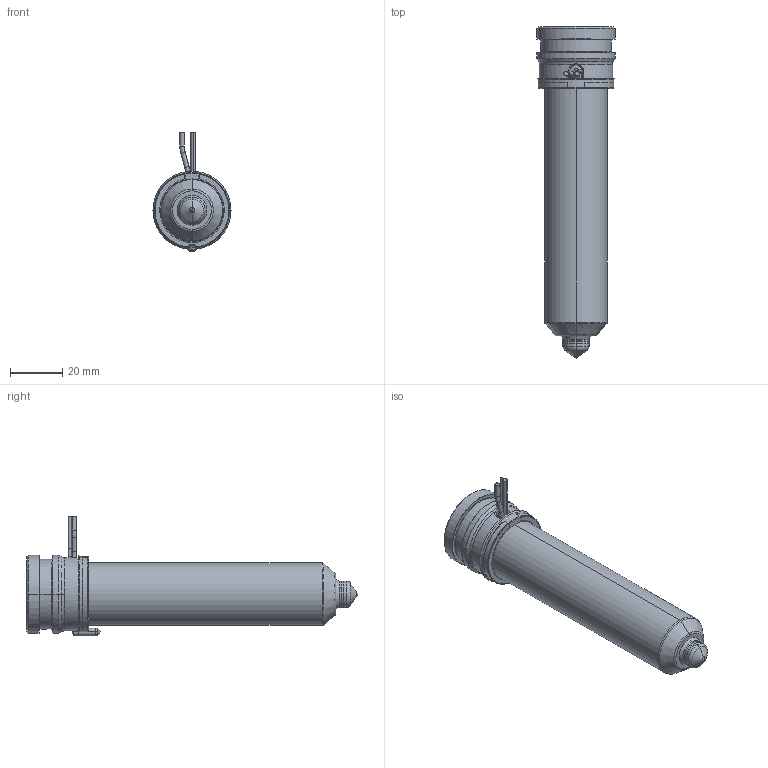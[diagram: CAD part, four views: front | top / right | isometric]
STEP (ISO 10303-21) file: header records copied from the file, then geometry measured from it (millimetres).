
FILE_DESCRIPTION((''),'2;1');
FILE_NAME('MPN-10-29-TX10-106-A','2026-02-11T11:17:14',('UVRWS'),('Thermoplay S.p.A.'),'CREO PARAMETRIC BY PTC INC, 2023494','CREO PARAMETRIC BY PTC INC, 2023494','');
FILE_SCHEMA(('CONFIG_CONTROL_DESIGN','SHAPE_APPEARANCE_LAYERS_GROUPS'));
Length unit declared in the file: millimetre
Products named in the file (1): MPN-10-29-TX10-106-A
Bounding box: 30 x 127.5 x 46 mm (x, y, z)
Volume: 40024.7 mm3; surface area: 39955.5 mm2
Topology: 2 solids, 3 shells, 551 faces, 1455 edges, 899 vertices
Faces by surface type: cylinder 180, plane 143, bspline 79, torus 68, cone 66, sphere 11, extrusion 4
Entity records: 28555 total; most frequent: CARTESIAN_POINT 12199, ORIENTED_EDGE 2894, DIRECTION 2641, EDGE_CURVE 1447, AXIS2_PLACEMENT_3D 1045, VERTEX_POINT 899, EDGE_LOOP 580, CIRCLE 576
